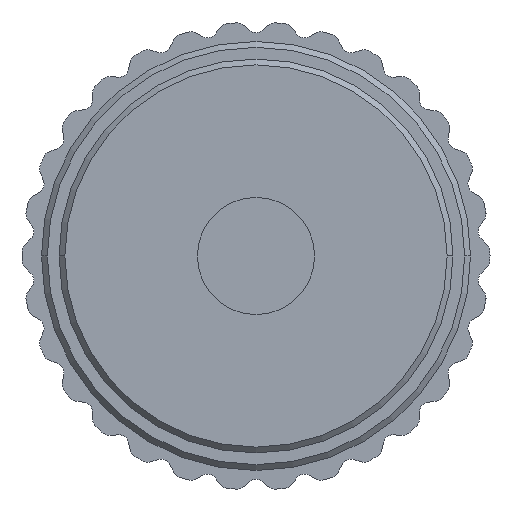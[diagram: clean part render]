
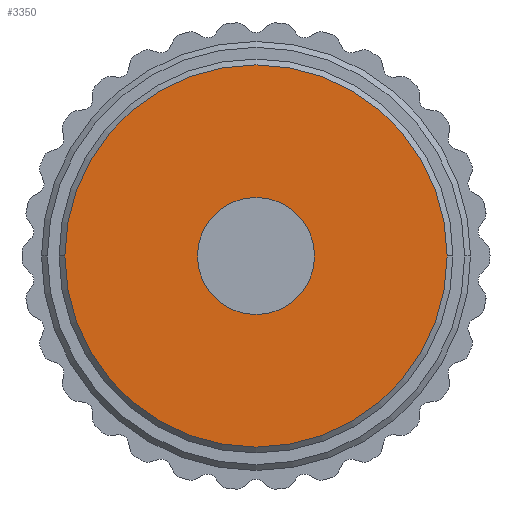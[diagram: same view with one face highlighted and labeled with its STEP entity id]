
A CAD part, front view. The second image highlights one B-rep face of the part: STEP entity #3350.
In plain terms, the highlighted planar face has unit normal (0, -1, 0).
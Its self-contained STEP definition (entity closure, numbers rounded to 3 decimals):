
#423 = EDGE_CURVE ( 'NONE', #8797, #10057, #7614, .T. ) ;
#703 = ORIENTED_EDGE ( 'NONE', *, *, #6189, .F. ) ;
#1280 = EDGE_CURVE ( 'NONE', #7629, #7056, #5719, .T. ) ;
#1593 = DIRECTION ( 'NONE',  ( 0., -1., 0. ) ) ;
#1639 = AXIS2_PLACEMENT_3D ( 'NONE', #2775, #6518, #4441 ) ;
#1719 = FACE_OUTER_BOUND ( 'NONE', #2120, .T. ) ;
#1760 = AXIS2_PLACEMENT_3D ( 'NONE', #9756, #1593, #6972 ) ;
#1926 = DIRECTION ( 'NONE',  ( 0., -1., 0. ) ) ;
#2120 = EDGE_LOOP ( 'NONE', ( #9906, #8203 ) ) ;
#2775 = CARTESIAN_POINT ( 'NONE',  ( -3.566, -24.924, 48.85 ) ) ;
#3077 = CARTESIAN_POINT ( 'NONE',  ( -3.566, -24.924, 48.85 ) ) ;
#3350 = ADVANCED_FACE ( 'NONE', ( #1719, #8915 ), #7088, .T. ) ;
#3837 = EDGE_CURVE ( 'NONE', #7056, #7629, #9265, .T. ) ;
#4246 = EDGE_LOOP ( 'NONE', ( #703, #9909 ) ) ;
#4333 = DIRECTION ( 'NONE',  ( 0., -1., 0. ) ) ;
#4441 = DIRECTION ( 'NONE',  ( 0., 0., -1. ) ) ;
#4585 = AXIS2_PLACEMENT_3D ( 'NONE', #3077, #11080, #6534 ) ;
#4725 = CARTESIAN_POINT ( 'NONE',  ( -3.566, -24.924, 51.85 ) ) ;
#4834 = CARTESIAN_POINT ( 'NONE',  ( -3.566, -24.924, 48.85 ) ) ;
#5104 = DIRECTION ( 'NONE',  ( 1., 0., 0. ) ) ;
#5429 = CARTESIAN_POINT ( 'NONE',  ( -13.366, -24.924, 48.85 ) ) ;
#5719 = CIRCLE ( 'NONE', #4585, 9.8 ) ;
#5997 = CARTESIAN_POINT ( 'NONE',  ( -3.566, -24.924, 48.85 ) ) ;
#6189 = EDGE_CURVE ( 'NONE', #10057, #8797, #7557, .T. ) ;
#6233 = AXIS2_PLACEMENT_3D ( 'NONE', #5997, #4333, #5104 ) ;
#6518 = DIRECTION ( 'NONE',  ( 0., -1., 0. ) ) ;
#6534 = DIRECTION ( 'NONE',  ( 1., 0., 0. ) ) ;
#6972 = DIRECTION ( 'NONE',  ( 1., 0., 0. ) ) ;
#7056 = VERTEX_POINT ( 'NONE', #8383 ) ;
#7088 = PLANE ( 'NONE',  #1760 ) ;
#7557 = CIRCLE ( 'NONE', #1639, 3. ) ;
#7614 = CIRCLE ( 'NONE', #8928, 3. ) ;
#7629 = VERTEX_POINT ( 'NONE', #5429 ) ;
#8203 = ORIENTED_EDGE ( 'NONE', *, *, #3837, .T. ) ;
#8383 = CARTESIAN_POINT ( 'NONE',  ( 6.234, -24.924, 48.85 ) ) ;
#8467 = DIRECTION ( 'NONE',  ( 0., 0., -1. ) ) ;
#8797 = VERTEX_POINT ( 'NONE', #4725 ) ;
#8915 = FACE_BOUND ( 'NONE', #4246, .T. ) ;
#8928 = AXIS2_PLACEMENT_3D ( 'NONE', #4834, #1926, #8467 ) ;
#9265 = CIRCLE ( 'NONE', #6233, 9.8 ) ;
#9756 = CARTESIAN_POINT ( 'NONE',  ( 6.534, -24.924, 48.85 ) ) ;
#9906 = ORIENTED_EDGE ( 'NONE', *, *, #1280, .T. ) ;
#9909 = ORIENTED_EDGE ( 'NONE', *, *, #423, .F. ) ;
#10057 = VERTEX_POINT ( 'NONE', #10626 ) ;
#10626 = CARTESIAN_POINT ( 'NONE',  ( -3.566, -24.924, 45.85 ) ) ;
#11080 = DIRECTION ( 'NONE',  ( 0., -1., 0. ) ) ;
